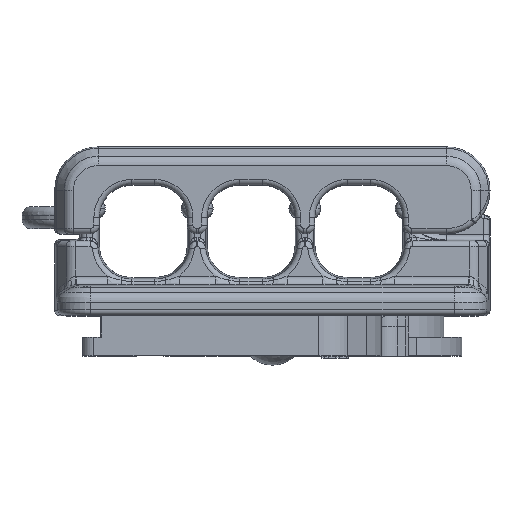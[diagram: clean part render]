
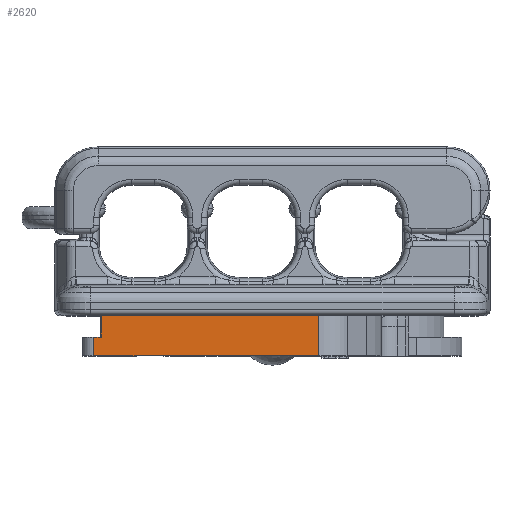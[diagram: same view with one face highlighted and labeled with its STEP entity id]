
A CAD part, top view. The second image highlights one B-rep face of the part: STEP entity #2620.
In plain terms, the highlighted planar face has unit normal (0, 0, 1).
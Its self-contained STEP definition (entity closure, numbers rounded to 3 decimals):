
#96 = VECTOR ( 'NONE', #11747, 1000. ) ;
#1762 = LINE ( 'NONE', #15489, #13833 ) ;
#2097 = ORIENTED_EDGE ( 'NONE', *, *, #14754, .F. ) ;
#2620 = ADVANCED_FACE ( 'NONE', ( #2690 ), #13409, .F. ) ;
#2690 = FACE_OUTER_BOUND ( 'NONE', #12792, .T. ) ;
#2914 = VECTOR ( 'NONE', #20875, 1000. ) ;
#3442 = CARTESIAN_POINT ( 'NONE',  ( 4.268, 6.2, 15.4 ) ) ;
#4427 = EDGE_CURVE ( 'NONE', #11073, #29978, #9255, .T. ) ;
#4707 = CARTESIAN_POINT ( 'NONE',  ( 0., 6.2, 15.4 ) ) ;
#5229 = VERTEX_POINT ( 'NONE', #3442 ) ;
#5396 = EDGE_CURVE ( 'NONE', #30085, #21752, #10112, .T. ) ;
#6043 = CARTESIAN_POINT ( 'NONE',  ( -16.4, 2.5, 15.4 ) ) ;
#6295 = CARTESIAN_POINT ( 'NONE',  ( -16.4, 4.2, 15.4 ) ) ;
#9255 = LINE ( 'NONE', #30605, #21021 ) ;
#9611 = ORIENTED_EDGE ( 'NONE', *, *, #23574, .F. ) ;
#9871 = ORIENTED_EDGE ( 'NONE', *, *, #33545, .T. ) ;
#10112 = LINE ( 'NONE', #12927, #2914 ) ;
#11073 = VERTEX_POINT ( 'NONE', #30178 ) ;
#11568 = CARTESIAN_POINT ( 'NONE',  ( -15.727, 6.2, 15.4 ) ) ;
#11747 = DIRECTION ( 'NONE',  ( 0., 1., 0. ) ) ;
#12792 = EDGE_LOOP ( 'NONE', ( #31327, #24227, #9611, #25342, #9871, #2097 ) ) ;
#12927 = CARTESIAN_POINT ( 'NONE',  ( -17.4, 2.5, 15.4 ) ) ;
#13409 = PLANE ( 'NONE',  #16602 ) ;
#13833 = VECTOR ( 'NONE', #31380, 1000. ) ;
#14754 = EDGE_CURVE ( 'NONE', #21752, #31546, #33457, .T. ) ;
#15489 = CARTESIAN_POINT ( 'NONE',  ( 0., 4.2, 15.4 ) ) ;
#15561 = CARTESIAN_POINT ( 'NONE',  ( -17.4, 7.5, 15.4 ) ) ;
#16602 = AXIS2_PLACEMENT_3D ( 'NONE', #15561, #32298, #26832 ) ;
#18941 = VECTOR ( 'NONE', #23581, 1000. ) ;
#20875 = DIRECTION ( 'NONE',  ( -1., 0., 0. ) ) ;
#21021 = VECTOR ( 'NONE', #25298, 1000. ) ;
#21752 = VERTEX_POINT ( 'NONE', #6043 ) ;
#22196 = CARTESIAN_POINT ( 'NONE',  ( -16.4, 4.2, 15.4 ) ) ;
#23574 = EDGE_CURVE ( 'NONE', #29978, #5229, #23754, .T. ) ;
#23581 = DIRECTION ( 'NONE',  ( 1., 0., 0. ) ) ;
#23754 = LINE ( 'NONE', #4707, #18941 ) ;
#24153 = CARTESIAN_POINT ( 'NONE',  ( 4.268, 2.5, 15.4 ) ) ;
#24227 = ORIENTED_EDGE ( 'NONE', *, *, #33283, .F. ) ;
#24845 = DIRECTION ( 'NONE',  ( 0., -1., 0. ) ) ;
#25298 = DIRECTION ( 'NONE',  ( 0., 1., 0. ) ) ;
#25314 = CARTESIAN_POINT ( 'NONE',  ( 4.268, 2.5, 15.4 ) ) ;
#25342 = ORIENTED_EDGE ( 'NONE', *, *, #4427, .F. ) ;
#26803 = VECTOR ( 'NONE', #24845, 1000. ) ;
#26832 = DIRECTION ( 'NONE',  ( 1., 0., 0. ) ) ;
#27499 = LINE ( 'NONE', #24153, #26803 ) ;
#29978 = VERTEX_POINT ( 'NONE', #11568 ) ;
#30085 = VERTEX_POINT ( 'NONE', #25314 ) ;
#30178 = CARTESIAN_POINT ( 'NONE',  ( -15.727, 4.2, 15.4 ) ) ;
#30605 = CARTESIAN_POINT ( 'NONE',  ( -15.727, 4.2, 15.4 ) ) ;
#31327 = ORIENTED_EDGE ( 'NONE', *, *, #5396, .F. ) ;
#31380 = DIRECTION ( 'NONE',  ( -1., 0., 0. ) ) ;
#31546 = VERTEX_POINT ( 'NONE', #22196 ) ;
#32298 = DIRECTION ( 'NONE',  ( 0., 0., -1. ) ) ;
#33283 = EDGE_CURVE ( 'NONE', #5229, #30085, #27499, .T. ) ;
#33457 = LINE ( 'NONE', #6295, #96 ) ;
#33545 = EDGE_CURVE ( 'NONE', #11073, #31546, #1762, .T. ) ;
